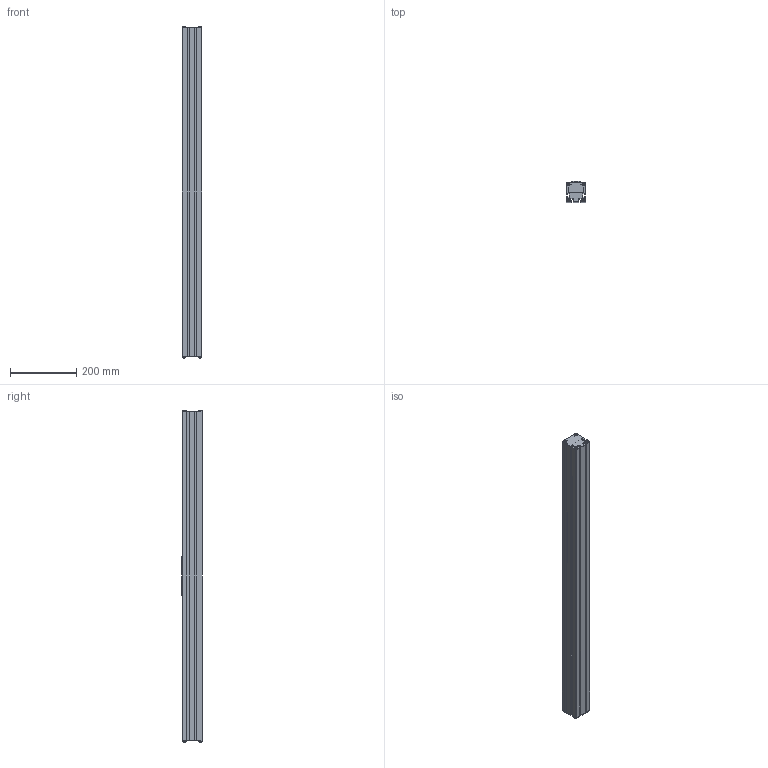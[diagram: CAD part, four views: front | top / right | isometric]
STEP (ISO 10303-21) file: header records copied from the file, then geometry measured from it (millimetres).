
FILE_DESCRIPTION (( 'STEP AP214' ), '1' );
FILE_NAME ('LSR60 - Konfig.STEP', '2022-06-30T09:38:35', ( '' ), ( '' ), 'SwSTEP 2.0', 'SolidWorks 2020', '' );
FILE_SCHEMA (( 'AUTOMOTIVE_DESIGN' ));
Length unit declared in the file: millimetre
Products named in the file (4): LSR60 - Konfig; carriage^LSR60 - Konfig; end plate^LSR60 - Konfig; profile^LSR60 - Konfig
Assembly tree (4 placements, depth 2):
  LSR60 - Konfig
    profile^LSR60 - Konfig
    carriage^LSR60 - Konfig
    end plate^LSR60 - Konfig  x2
Bounding box: 60 x 62.5 x 999.92 mm (x, y, z)
Volume: 2018543.2 mm3; surface area: 515532.2 mm2
Topology: 4 solids, 4 shells, 358 faces, 926 edges, 612 vertices
Faces by surface type: plane 274, cylinder 64, bspline 16, cone 4
Entity records: 8860 total; most frequent: CARTESIAN_POINT 2425, ORIENTED_EDGE 1292, DIRECTION 1204, EDGE_CURVE 646, VECTOR 534, LINE 534, VERTEX_POINT 428, AXIS2_PLACEMENT_3D 335
